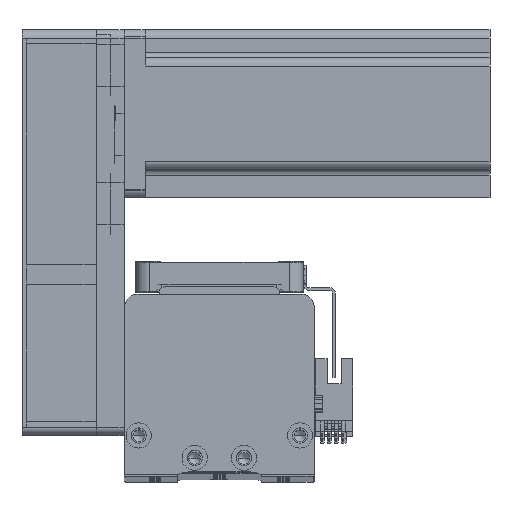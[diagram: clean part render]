
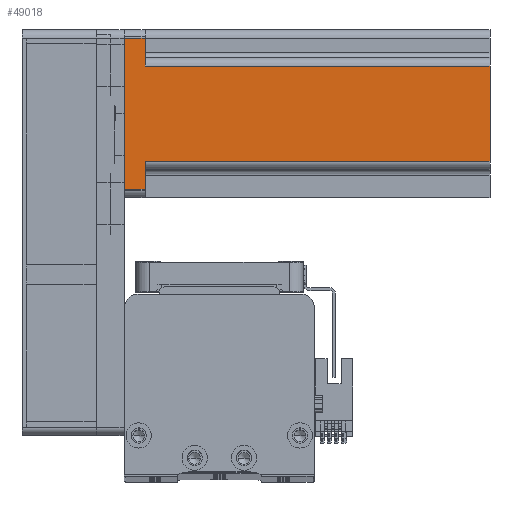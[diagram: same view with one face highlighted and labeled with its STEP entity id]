
A CAD part, top view. The second image highlights one B-rep face of the part: STEP entity #49018.
In plain terms, the highlighted planar face has unit normal (0, 0, 1) as drawn and (0, 1, 0) by its records, which use the part's own axes.
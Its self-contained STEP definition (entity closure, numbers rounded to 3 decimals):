
#399 = PLANE ( 'NONE',  #12012 ) ;
#501 = EDGE_CURVE ( 'NONE', #27819, #26574, #48614, .T. ) ;
#644 = EDGE_CURVE ( 'NONE', #5301, #36065, #41070, .T. ) ;
#790 = CARTESIAN_POINT ( 'NONE',  ( -20., 30., 7.5 ) ) ;
#896 = DIRECTION ( 'NONE',  ( 1., 0., 0. ) ) ;
#1029 = ORIENTED_EDGE ( 'NONE', *, *, #50695, .T. ) ;
#5301 = VERTEX_POINT ( 'NONE', #19192 ) ;
#6728 = CARTESIAN_POINT ( 'NONE',  ( 30., 30., 0. ) ) ;
#7411 = EDGE_CURVE ( 'NONE', #26574, #25300, #18800, .T. ) ;
#7468 = CARTESIAN_POINT ( 'NONE',  ( -17., 30., 7.5 ) ) ;
#8224 = VECTOR ( 'NONE', #28560, 1000. ) ;
#8472 = VECTOR ( 'NONE', #19069, 1000. ) ;
#9756 = CARTESIAN_POINT ( 'NONE',  ( 30., 30., 130.7 ) ) ;
#9768 = EDGE_LOOP ( 'NONE', ( #18978, #48825, #26814, #1029, #49694, #10079, #42183, #10322 ) ) ;
#10068 = CARTESIAN_POINT ( 'NONE',  ( -17., 30., 130.7 ) ) ;
#10079 = ORIENTED_EDGE ( 'NONE', *, *, #31631, .T. ) ;
#10322 = ORIENTED_EDGE ( 'NONE', *, *, #501, .T. ) ;
#12012 = AXIS2_PLACEMENT_3D ( 'NONE', #48400, #24688, #896 ) ;
#13850 = LINE ( 'NONE', #10068, #33527 ) ;
#14608 = VECTOR ( 'NONE', #38336, 1000. ) ;
#15851 = LINE ( 'NONE', #6728, #14608 ) ;
#16278 = EDGE_CURVE ( 'NONE', #27111, #45677, #36418, .T. ) ;
#18055 = DIRECTION ( 'NONE',  ( 0., 0., 1. ) ) ;
#18800 = LINE ( 'NONE', #790, #8224 ) ;
#18934 = VECTOR ( 'NONE', #47005, 1000. ) ;
#18978 = ORIENTED_EDGE ( 'NONE', *, *, #7411, .T. ) ;
#19069 = DIRECTION ( 'NONE',  ( 0., 0., -1. ) ) ;
#19192 = CARTESIAN_POINT ( 'NONE',  ( 27., 30., 7.5 ) ) ;
#21446 = CARTESIAN_POINT ( 'NONE',  ( 27., 30., 130.7 ) ) ;
#22491 = CARTESIAN_POINT ( 'NONE',  ( -27., 30., 130.7 ) ) ;
#24688 = DIRECTION ( 'NONE',  ( 0., -1., 0. ) ) ;
#24784 = VERTEX_POINT ( 'NONE', #27916 ) ;
#25300 = VERTEX_POINT ( 'NONE', #7468 ) ;
#25963 = VECTOR ( 'NONE', #45311, 1000. ) ;
#26574 = VERTEX_POINT ( 'NONE', #40421 ) ;
#26760 = CARTESIAN_POINT ( 'NONE',  ( 17., 30., 130.7 ) ) ;
#26814 = ORIENTED_EDGE ( 'NONE', *, *, #16278, .F. ) ;
#27111 = VERTEX_POINT ( 'NONE', #44038 ) ;
#27819 = VERTEX_POINT ( 'NONE', #45029 ) ;
#27916 = CARTESIAN_POINT ( 'NONE',  ( 27., 30., 0. ) ) ;
#28560 = DIRECTION ( 'NONE',  ( 1., 0., 0. ) ) ;
#29475 = LINE ( 'NONE', #26760, #8472 ) ;
#30358 = EDGE_CURVE ( 'NONE', #25300, #45677, #13850, .T. ) ;
#30403 = DIRECTION ( 'NONE',  ( 0., 0., 1. ) ) ;
#31136 = VECTOR ( 'NONE', #37209, 1000. ) ;
#31631 = EDGE_CURVE ( 'NONE', #5301, #24784, #41587, .T. ) ;
#33527 = VECTOR ( 'NONE', #18055, 1000. ) ;
#36065 = VERTEX_POINT ( 'NONE', #50277 ) ;
#36418 = LINE ( 'NONE', #9756, #25963 ) ;
#37209 = DIRECTION ( 'NONE',  ( 0., 0., -1. ) ) ;
#37987 = VECTOR ( 'NONE', #30403, 1000. ) ;
#38336 = DIRECTION ( 'NONE',  ( -1., 0., 0. ) ) ;
#38961 = CARTESIAN_POINT ( 'NONE',  ( 20., 30., 7.5 ) ) ;
#40421 = CARTESIAN_POINT ( 'NONE',  ( -27., 30., 7.5 ) ) ;
#41070 = LINE ( 'NONE', #38961, #18934 ) ;
#41587 = LINE ( 'NONE', #21446, #31136 ) ;
#42183 = ORIENTED_EDGE ( 'NONE', *, *, #44218, .T. ) ;
#43979 = FACE_OUTER_BOUND ( 'NONE', #9768, .T. ) ;
#44038 = CARTESIAN_POINT ( 'NONE',  ( 17., 30., 130.7 ) ) ;
#44218 = EDGE_CURVE ( 'NONE', #24784, #27819, #15851, .T. ) ;
#44280 = CARTESIAN_POINT ( 'NONE',  ( -17., 30., 130.7 ) ) ;
#45029 = CARTESIAN_POINT ( 'NONE',  ( -27., 30., 0. ) ) ;
#45311 = DIRECTION ( 'NONE',  ( -1., 0., 0. ) ) ;
#45677 = VERTEX_POINT ( 'NONE', #44280 ) ;
#47005 = DIRECTION ( 'NONE',  ( -1., 0., 0. ) ) ;
#48400 = CARTESIAN_POINT ( 'NONE',  ( 30., 30., 130.7 ) ) ;
#48614 = LINE ( 'NONE', #22491, #37987 ) ;
#48825 = ORIENTED_EDGE ( 'NONE', *, *, #30358, .T. ) ;
#49018 = ADVANCED_FACE ( 'NONE', ( #43979 ), #399, .F. ) ;
#49694 = ORIENTED_EDGE ( 'NONE', *, *, #644, .F. ) ;
#50277 = CARTESIAN_POINT ( 'NONE',  ( 17., 30., 7.5 ) ) ;
#50695 = EDGE_CURVE ( 'NONE', #27111, #36065, #29475, .T. ) ;
